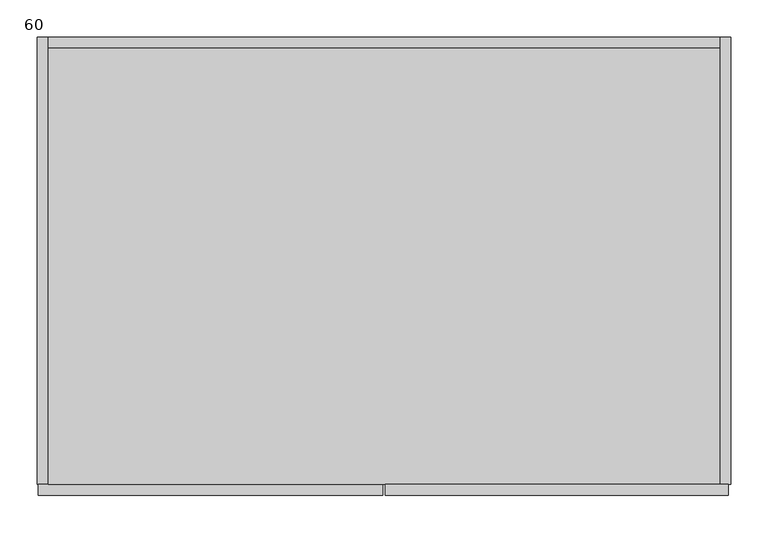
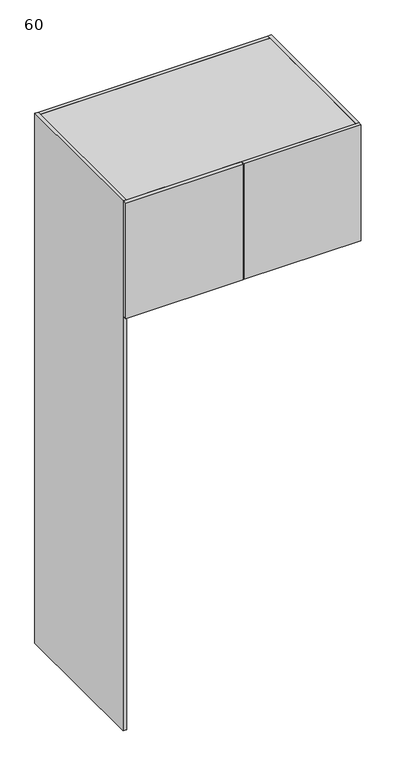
"""IFC4 building model written with IfcOpenShell, lengths in millimetres: furniture geometry, MUEBLE LATERAL Y SUP REFRI : 60."""

from ifc_helpers import new_model, si_unit, frame, origin, place, context, project, spatial, polyline, outline, extrude, source, transform, mapped, element, save


def furniture_60_2606760a(model_context):
    return source(origin(), model_context, "Body", "SweptSolid", [
        extrude(outline(polyline([(506.7003264, -615.0), (46.2003264, -615.0), (46.2003264, -600.0), (506.7003264, -600.0), (506.7003264, -615.0)])), frame((0.0, 0.0, 1820.0), z_axis=(0.0, 0.0, 1.0), x_axis=(1.0, 0.0, 0.0)), (0.0, 0.0, 1.0), 480.0),
        extrude(outline(polyline([(-405.2996736, -15.0), (494.7003264, -15.0), (494.7003264, -600.0), (-405.2996736, -600.0), (-405.2996736, -15.0)])), frame((0.0, 0.0, 2285.0), z_axis=(0.0, 0.0, 1.0), x_axis=(1.0, 0.0, 0.0)), (0.0, 0.0, 1.0), 15.0),
        extrude(outline(polyline([(43.2003264, -615.0), (-418.7996736, -615.0), (-418.7996736, -600.0), (43.2003264, -600.0), (43.2003264, -615.0)])), frame((0.0, 0.0, 1820.0), z_axis=(0.0, 0.0, 1.0), x_axis=(1.0, 0.0, 0.0)), (0.0, 0.0, 1.0), 480.0),
        extrude(outline(polyline([(494.7003264, -600.0), (-405.2996736, -600.0), (-405.2996736, -585.0), (494.7003264, -585.0), (494.7003264, -600.0)])), frame((0.0, 0.0, 2140.0), z_axis=(0.0, 0.0, 1.0), x_axis=(1.0, 0.0, 0.0)), (0.0, 0.0, 1.0), 145.0),
        extrude(outline(polyline([(-405.2996736, -15.0), (494.7003264, -15.0), (494.7003264, -600.0), (-405.2996736, -600.0), (-405.2996736, -15.0)])), frame((0.0, 0.0, 1820.0), z_axis=(0.0, 0.0, 1.0), x_axis=(1.0, 0.0, 0.0)), (0.0, 0.0, 1.0), 15.0),
        extrude(outline(polyline([(494.7003264, 0.0), (494.7003264, -15.0), (-405.2996736, -15.0), (-405.2996736, 0.0), (494.7003264, 0.0)])), frame((0.0, 0.0, 1820.0), z_axis=(0.0, 0.0, 1.0), x_axis=(1.0, 0.0, 0.0)), (0.0, 0.0, 1.0), 480.0),
        extrude(outline(polyline([(494.7003264, 0.0), (509.7003264, 0.0), (509.7003264, -600.0), (494.7003264, -600.0), (494.7003264, 0.0)])), frame((0.0, 0.0, 1820.0), z_axis=(0.0, 0.0, 1.0), x_axis=(1.0, 0.0, 0.0)), (0.0, 0.0, 1.0), 480.0),
        extrude(outline(polyline([(-405.2996736, 0.0), (-405.2996736, -600.0), (-420.2996736, -600.0), (-420.2996736, 0.0), (-405.2996736, 0.0)])), frame((0.0, 0.0, 100.0), z_axis=(0.0, 0.0, 1.0), x_axis=(1.0, 0.0, 0.0)), (0.0, 0.0, 1.0), 2200.0),
    ])


if __name__ == "__main__":
    model = new_model("IFC4")
    model_context = context("Model", 3, world=origin())
    ifc_project = project(units=[si_unit("LENGTHUNIT", "METRE", prefix="MILLI")], contexts=[model_context])
    site = spatial("IfcSite", under=ifc_project)
    building = spatial("IfcBuilding", under=site)
    placement = place(None, origin())
    furniture_60_shape = furniture_60_2606760a(model_context)
    element("IfcFurniture", 1, ObjectType="MUEBLE LATERAL Y SUP REFRI : 60", at=placement, inside=building, context=model_context, shape_type="MappedRepresentation", body=[
        mapped(furniture_60_shape, transform((0.0, 0.0, 0.0), x_axis=(1.0, 0.0, 0.0), y_axis=(0.0, 1.0, 0.0), z_axis=(0.0, 0.0, 1.0))),
    ])
    save(model, "model.ifc")
